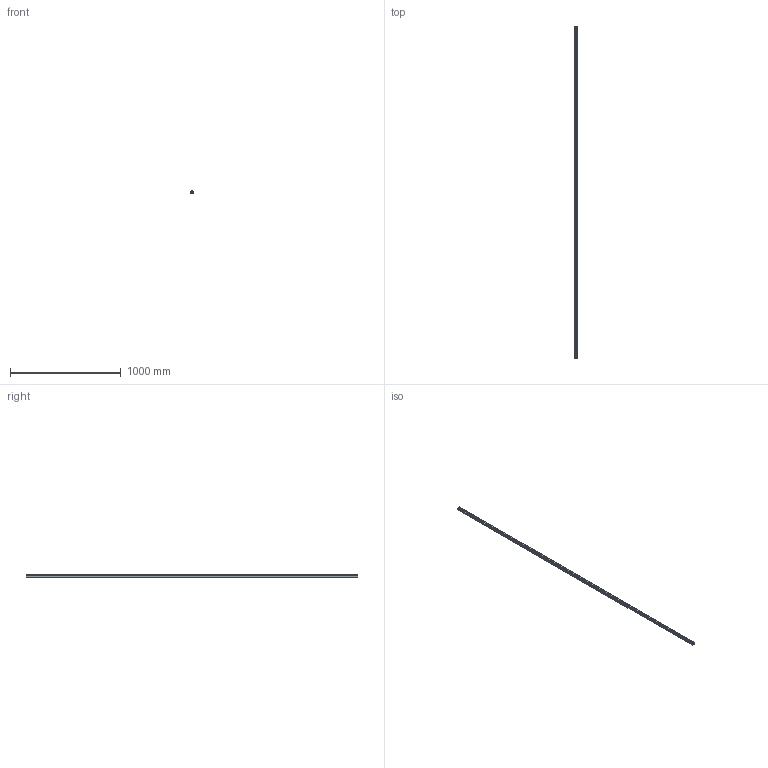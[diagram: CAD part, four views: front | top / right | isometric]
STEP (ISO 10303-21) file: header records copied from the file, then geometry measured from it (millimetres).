
FILE_DESCRIPTION((''),'2;1');
FILE_NAME('GS0303V','2002-12-27T',('Lipro doo'),('Lipro d.o.o.'),'PRO/ENGINEER BY PARAMETRIC TECHNOLOGY CORPORATION, 2001150','PRO/ENGINEER BY PARAMETRIC TECHNOLOGY CORPORATION, 2001150','');
FILE_SCHEMA(('CONFIG_CONTROL_DESIGN'));
Length unit declared in the file: millimetre
Products named in the file (1): GS0303V
Bounding box: 30 x 3000 x 20 mm (x, y, z)
Volume: 1074750 mm3; surface area: 477716.5 mm2
Topology: 1 solids, 1 shells, 26 faces, 72 edges, 48 vertices
Faces by surface type: plane 26
Entity records: 854 total; most frequent: CARTESIAN_POINT 146, ORIENTED_EDGE 144, DIRECTION 124, VECTOR 72, LINE 72, EDGE_CURVE 72, VERTEX_POINT 48, AXIS2_PLACEMENT_3D 26
